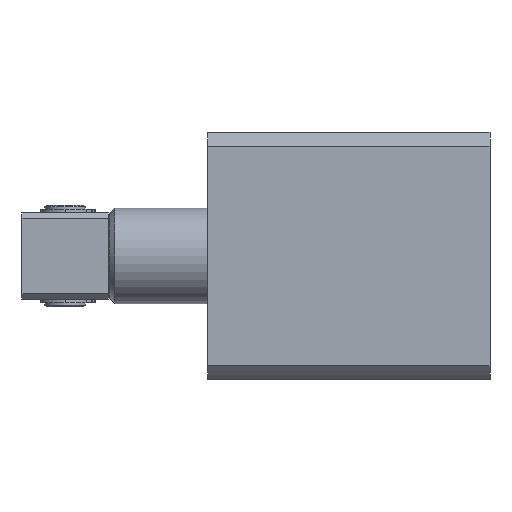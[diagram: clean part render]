
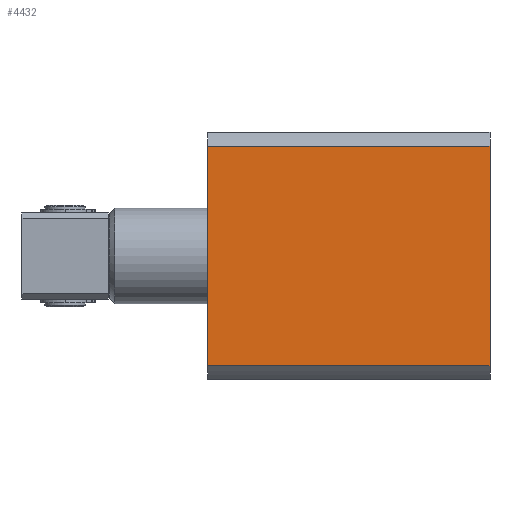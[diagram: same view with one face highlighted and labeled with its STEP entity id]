
A CAD part, left-side view. The second image highlights one B-rep face of the part: STEP entity #4432.
In plain terms, the highlighted planar face has unit normal (-1, 0, 0).
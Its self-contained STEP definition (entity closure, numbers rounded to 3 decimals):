
#244 = DIRECTION ( 'NONE',  ( 0., -1., 0. ) ) ;
#259 = CARTESIAN_POINT ( 'NONE',  ( 0., 105., -5.18 ) ) ;
#284 = CARTESIAN_POINT ( 'NONE',  ( 0., 105., -86.82 ) ) ;
#368 = ORIENTED_EDGE ( 'NONE', *, *, #4514, .F. ) ;
#884 = VERTEX_POINT ( 'NONE', #3266 ) ;
#1003 = DIRECTION ( 'NONE',  ( 1., 0., 0. ) ) ;
#1116 = FACE_OUTER_BOUND ( 'NONE', #3515, .T. ) ;
#1277 = VECTOR ( 'NONE', #1311, 1000. ) ;
#1311 = DIRECTION ( 'NONE',  ( 0., 0., 1. ) ) ;
#1412 = VERTEX_POINT ( 'NONE', #2680 ) ;
#1433 = CARTESIAN_POINT ( 'NONE',  ( 0., 0., -86.82 ) ) ;
#1596 = VERTEX_POINT ( 'NONE', #1433 ) ;
#1845 = ORIENTED_EDGE ( 'NONE', *, *, #2894, .T. ) ;
#1888 = LINE ( 'NONE', #284, #3874 ) ;
#2680 = CARTESIAN_POINT ( 'NONE',  ( 0., 0., -5.18 ) ) ;
#2705 = VERTEX_POINT ( 'NONE', #3454 ) ;
#2822 = VECTOR ( 'NONE', #5007, 1000. ) ;
#2894 = EDGE_CURVE ( 'NONE', #884, #1596, #1888, .T. ) ;
#3004 = LINE ( 'NONE', #4181, #3948 ) ;
#3171 = EDGE_CURVE ( 'NONE', #1596, #1412, #3377, .T. ) ;
#3266 = CARTESIAN_POINT ( 'NONE',  ( 0., 105., -86.82 ) ) ;
#3362 = CARTESIAN_POINT ( 'NONE',  ( 0., 105., -5.18 ) ) ;
#3377 = LINE ( 'NONE', #3669, #1277 ) ;
#3454 = CARTESIAN_POINT ( 'NONE',  ( 0., 105., -5.18 ) ) ;
#3515 = EDGE_LOOP ( 'NONE', ( #4018, #3580, #368, #1845 ) ) ;
#3580 = ORIENTED_EDGE ( 'NONE', *, *, #4188, .F. ) ;
#3669 = CARTESIAN_POINT ( 'NONE',  ( 0., 0., -5.18 ) ) ;
#3763 = DIRECTION ( 'NONE',  ( 0., 0., -1. ) ) ;
#3772 = LINE ( 'NONE', #259, #2822 ) ;
#3874 = VECTOR ( 'NONE', #4589, 1000. ) ;
#3948 = VECTOR ( 'NONE', #244, 1000. ) ;
#4018 = ORIENTED_EDGE ( 'NONE', *, *, #3171, .T. ) ;
#4181 = CARTESIAN_POINT ( 'NONE',  ( 0., 105., -5.18 ) ) ;
#4188 = EDGE_CURVE ( 'NONE', #2705, #1412, #3004, .T. ) ;
#4397 = PLANE ( 'NONE',  #4581 ) ;
#4432 = ADVANCED_FACE ( 'NONE', ( #1116 ), #4397, .F. ) ;
#4514 = EDGE_CURVE ( 'NONE', #884, #2705, #3772, .T. ) ;
#4581 = AXIS2_PLACEMENT_3D ( 'NONE', #3362, #1003, #3763 ) ;
#4589 = DIRECTION ( 'NONE',  ( 0., -1., 0. ) ) ;
#5007 = DIRECTION ( 'NONE',  ( 0., 0., 1. ) ) ;
